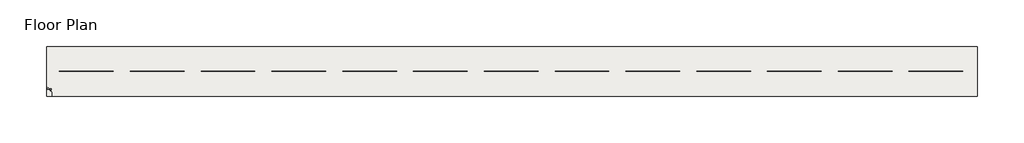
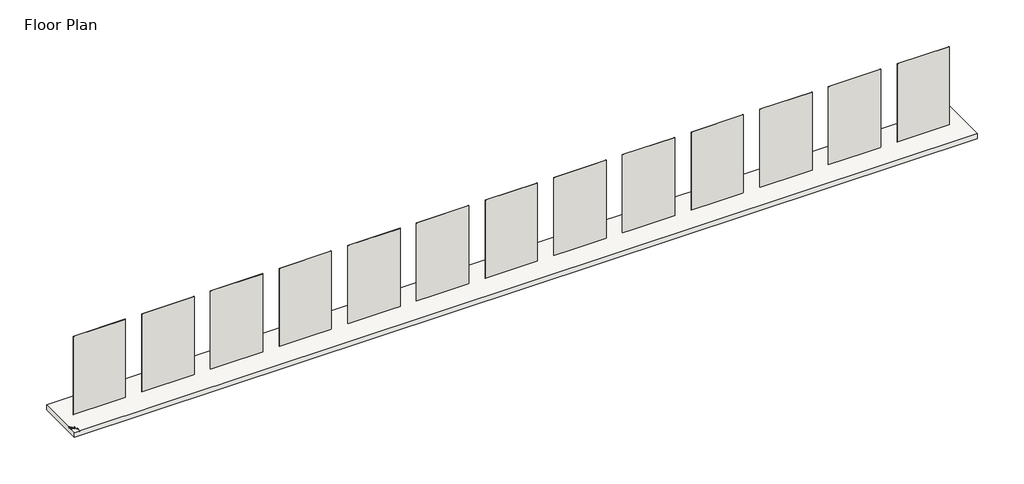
# One storey, incomplete: 13 walls, 1 slab.
"""IFC4 building model written with IfcOpenShell, lengths in millimetres."""

import ifcopenshell
import ifcopenshell.guid

model = None  # the IFC model being written
_history = None  # IfcOwnerHistory: only IFC2X3 demands one
_inside = {}  # id of a spatial element -> (the spatial element, [elements in it])
_under = {}  # id of a project, library or spatial element -> (it, [spatial elements below it])
_declared = {}  # id of a project -> (the project, [libraries it declares])
_typed = {}  # id of a type object -> (the type object, [elements of that type])
_made_of = {}  # id of a material, layer set ... -> (it, [elements and type objects made of it])


def new_model(schema):
    """Start an empty IFC model of exactly this schema.

    Asked for "IFC4X3", IfcOpenShell would pick the latest addendum, in which some entities
    have other attributes; the version numbers below select the first issue.
    IFC2X3 requires an IfcOwnerHistory on every rooted entity: one is made here for all.
    """
    global model, _history
    if schema == "IFC4X3":
        model = ifcopenshell.file(schema_version=(4, 3, 0, 0))
    else:
        model = ifcopenshell.file(schema=schema)
    _inside.clear()
    _under.clear()
    _declared.clear()
    _typed.clear()
    _made_of.clear()
    _history = None
    if model.schema == "IFC2X3":
        org = make("IfcOrganization", Name="unknown")
        user = make(
            "IfcPersonAndOrganization",
            ThePerson=make("IfcPerson", FamilyName="unknown"),
            TheOrganization=org,
        )
        app = make(
            "IfcApplication",
            ApplicationDeveloper=org,
            Version="unknown",
            ApplicationFullName="unknown",
            ApplicationIdentifier="unknown",
        )
        _history = make(
            "IfcOwnerHistory",
            OwningUser=user,
            OwningApplication=app,
            ChangeAction="ADDED",
            CreationDate=0,
        )
    return model


def make(cls, **values):
    """One entity of the class cls with the attributes given. An attribute that is None is left unset."""
    return model.create_entity(
        cls, **{name: value for name, value in values.items() if value is not None}
    )


def rooted(cls, **values):
    """An entity with a GlobalId (a new one), such as an element, a storey or a relation."""
    return make(cls, GlobalId=ifcopenshell.guid.new(), OwnerHistory=_history, **values)


def si_unit(unit_type, name, prefix=None):
    """IfcSIUnit, for example si_unit("LENGTHUNIT", "METRE", prefix="MILLI")."""
    return make("IfcSIUnit", UnitType=unit_type, Prefix=prefix, Name=name)


def assignment(units):
    """IfcUnitAssignment: the units of a project."""
    return None if units is None else make("IfcUnitAssignment", Units=units)


def point(xyz):
    """IfcCartesianPoint."""
    return None if xyz is None else make("IfcCartesianPoint", Coordinates=xyz)


def direction(xyz):
    """IfcDirection."""
    return None if xyz is None else make("IfcDirection", DirectionRatios=xyz)


def frame(location, z_axis=None, x_axis=None):
    """IfcAxis2Placement3D, a coordinate frame: its origin and axes. An axis left out is left unset."""
    return make(
        "IfcAxis2Placement3D",
        Location=point(location),
        Axis=direction(z_axis),
        RefDirection=direction(x_axis),
    )


def origin():
    """The frame at (0, 0, 0) with its axes left unset."""
    return frame((0.0, 0.0, 0.0))


def origin_with_axes():
    """The frame at (0, 0, 0) with the z axis (0, 0, 1) and the x axis (1, 0, 0) written out."""
    return frame((0.0, 0.0, 0.0), z_axis=(0.0, 0.0, 1.0), x_axis=(1.0, 0.0, 0.0))


def place(relative_to, where):
    """IfcLocalPlacement: puts the frame where relative to a parent placement (None: the world)."""
    return make(
        "IfcLocalPlacement", PlacementRelTo=relative_to, RelativePlacement=where
    )


def context(
    kind, dimensions, precision=None, world=None, true_north=None, identifier=None
):
    """IfcGeometricRepresentationContext, for example the 3D "Model" context."""
    return make(
        "IfcGeometricRepresentationContext",
        ContextIdentifier=identifier,
        ContextType=kind,
        CoordinateSpaceDimension=dimensions,
        Precision=precision,
        WorldCoordinateSystem=world,
        TrueNorth=true_north,
    )


def project(units=None, contexts=None):
    """IfcProject with its units and contexts."""
    return rooted(
        "IfcProject",
        Name="project",
        RepresentationContexts=contexts,
        UnitsInContext=assignment(units),
    )


def spatial(cls, under=None, at=None, **own):
    """A site, building, storey or space (cls), placed at a placement, below another one or the project."""
    s = rooted(cls, ObjectPlacement=at, **own)
    if under is not None:
        _under.setdefault(under.id(), (under, []))[1].append(s)
    return s


def polyline(points):
    """IfcPolyline through the points."""
    return make("IfcPolyline", Points=[point(p) for p in points])


def outline(outer, holes=None, kind="AREA"):
    """IfcArbitraryClosedProfileDef: a profile drawn as a closed curve; with holes, ...WithVoids."""
    if holes is None:
        return make("IfcArbitraryClosedProfileDef", ProfileType=kind, OuterCurve=outer)
    return make(
        "IfcArbitraryProfileDefWithVoids",
        ProfileType=kind,
        OuterCurve=outer,
        InnerCurves=holes,
    )


def extrude(swept, where, along, depth):
    """IfcExtrudedAreaSolid: the profile swept, set in the frame where, extruded along a direction by depth."""
    return make(
        "IfcExtrudedAreaSolid",
        SweptArea=swept,
        Position=where,
        ExtrudedDirection=direction(along),
        Depth=depth,
    )


def faces_of(points, faces, orient=None, outer=None):
    """IfcFace entities. A face is a list of loops; a loop is a list of indices into points, from 0.

    orient and outer hold one flag for each loop. By default every Orientation is true, the
    first loop of a face is its IfcFaceOuterBound and the others are IfcFaceBound.
    """
    made = []
    for i, loops in enumerate(faces):
        bounds = []
        for j, loop in enumerate(loops):
            is_outer = j == 0 if outer is None else outer[i][j]
            bounds.append(
                make(
                    "IfcFaceOuterBound" if is_outer else "IfcFaceBound",
                    Bound=make("IfcPolyLoop", Polygon=[points[k] for k in loop]),
                    Orientation=True if orient is None else orient[i][j],
                )
            )
        made.append(make("IfcFace", Bounds=bounds))
    return made


def faceted_brep(points, faces, orient=None, outer=None, voids=None):
    """IfcFacetedBrep: a solid bounded by flat faces; with voids (closed shells), ...WithVoids."""
    shared = [point(p) for p in points]
    hull = make("IfcClosedShell", CfsFaces=faces_of(shared, faces, orient, outer))
    if voids is None:
        return make("IfcFacetedBrep", Outer=hull)
    return make(
        "IfcFacetedBrepWithVoids",
        Outer=hull,
        Voids=[
            make(cls, CfsFaces=faces_of(shared, fs, o, b)) for cls, fs, o, b in voids
        ],
    )


def shape(context_of_items, identifier, shape_type, items):
    """IfcShapeRepresentation: the items that make up one representation, for example the "Body"."""
    return make(
        "IfcShapeRepresentation",
        ContextOfItems=context_of_items,
        RepresentationIdentifier=identifier,
        RepresentationType=shape_type,
        Items=items,
    )


def made_of(thing, what):
    """Note that an element or type object is made of a material, layer set ...; save() writes the relation."""
    if what is not None:
        _made_of.setdefault(what.id(), (what, []))[1].append(thing)
    return thing


def element(
    cls,
    number,
    at=None,
    inside=None,
    cuts=None,
    type_object=None,
    material=None,
    context=None,
    identifier="Body",
    shape_type=None,
    held_by="IfcProductDefinitionShape",
    body=None,
    shapes=None,
    **own,
):
    """One element of the class cls, such as IfcWall. Its Tag is "e" and its number.

    at: its placement. inside: the storey or other place that contains it. cuts: it is an
    opening in that element (IfcRelVoidsElement). A single representation is given by context,
    identifier, shape_type and body (its items); several are given by shapes. held_by: the class
    of the entity that holds the representations. save() writes the other relations.
    """
    e = rooted(cls, Tag="e%d" % number, ObjectPlacement=at, **own)
    if body is not None:
        shapes = [shape(context, identifier, shape_type, body)]
    if shapes is not None:
        e.Representation = make(held_by, Representations=shapes)
    if inside is not None:
        _inside.setdefault(inside.id(), (inside, []))[1].append(e)
    if cuts is not None:
        rooted(
            "IfcRelVoidsElement", RelatingBuildingElement=cuts, RelatedOpeningElement=e
        )
    if type_object is not None:
        _typed.setdefault(type_object.id(), (type_object, []))[1].append(e)
    return made_of(e, material)


def aggregate(whole, parts):
    """IfcRelAggregates: a whole, such as a stair, and the parts it consists of."""
    return rooted("IfcRelAggregates", RelatingObject=whole, RelatedObjects=parts)


def save(model, path):
    """Write the relations noted so far, then the file.

    IfcRelAggregates (storeys below a building ...), IfcRelContainedInSpatialStructure (elements
    in a storey), IfcRelDefinesByType, IfcRelAssociatesMaterial and IfcRelDeclares: one each for
    every whole, place, type object, material and project.
    """
    for whole, parts in _under.values():
        aggregate(whole, parts)
    for where, things in _inside.values():
        rooted(
            "IfcRelContainedInSpatialStructure",
            RelatedElements=things,
            RelatingStructure=where,
        )
    for kind, things in _typed.values():
        rooted("IfcRelDefinesByType", RelatedObjects=things, RelatingType=kind)
    for what, things in _made_of.values():
        rooted("IfcRelAssociatesMaterial", RelatedObjects=things, RelatingMaterial=what)
    for by, libraries in _declared.values():
        rooted("IfcRelDeclares", RelatingContext=by, RelatedDefinitions=libraries)
    model.write(path)


model = new_model("IFC4")

# Units and contexts
model_context = context("Model", 3, world=origin())
ifc_project = project(units=[si_unit("LENGTHUNIT", "METRE", prefix="MILLI")], contexts=[model_context])

# Site, building, storey
site = spatial("IfcSite", under=ifc_project)
building = spatial("IfcBuilding", under=site)
storey = spatial("IfcBuildingStorey", under=building, Name="Floor Plan", Elevation=0.0)

# Slab
placement = place(None, origin())
element("IfcSlab", 1, ObjectType="Floor 1", at=placement, inside=storey, context=model_context, shape_type="Brep", body=[
    faceted_brep([(409669.564463, -1405.268292, -300.0), (357069.564463, -1405.268292, -300.0), (357069.564463, 1405.268292, -300.0), (409669.564463, 1405.268292, -300.0), (409669.564463, 1405.268292, 0.0), (357069.564463, 1405.268292, 0.0), (357069.564463, -838.8208533, 0.0), (357073.1211266, -836.7674126, 0.0), (357103.8301292, -854.4972635, 0.0), (357103.8301292, -887.6294851, 0.0), (357073.1211266, -905.3593361, 0.0), (357069.564463, -903.3058954, 0.0), (357069.564463, -1029.5470898, 0.0), (357079.1972272, -1035.1085689, 0.0), (357115.3908374, -1014.2121783, 0.0), (357162.4046401, -1041.3556099, 0.0), (357208.4091656, -1014.7948848, 0.0), (357267.6401701, -1048.9919211, 0.0), (357267.6401701, -1095.6301509, 0.0), (357296.9088101, -1078.7318937, 0.0), (357351.5578344, -1110.2835225, 0.0), (357351.5578344, -1149.3943664, 0.0), (357386.1988505, -1169.3943664, 0.0), (357386.1988505, -1405.268292, 0.0), (409669.564463, -1405.268292, 0.0), (357152.4226577, -913.8797767, 0.0), (357198.7748127, -940.6412058, 0.0), (357198.7748127, -995.8128392, 0.0), (357152.4226577, -1022.5742684, 0.0), (357106.0705027, -995.8128392, 0.0), (357106.0705027, -940.6412058, 0.0), (357302.5290945, -971.7658751, 0.0), (357333.3339718, -989.5510793, 0.0), (357333.3339718, -1022.1588741, 0.0), (357302.5290945, -1039.9440783, 0.0), (357271.7242172, -1022.1588741, 0.0), (357271.7242172, -989.5510793, 0.0), (357386.1988505, -1405.268292, -25.0), (357069.564463, -1405.268292, -25.0), (357069.564463, -1029.5470898, -25.0), (357069.564463, -903.3058954, -25.0), (357069.564463, -838.8208533, -25.0), (357386.1988505, -1169.3943664, -25.0), (357351.5578344, -1149.3943664, -25.0), (357351.5578344, -1110.2835225, -25.0), (357296.9088101, -1078.7318937, -25.0), (357267.6401701, -1095.6301509, -25.0), (357267.6401701, -1048.9919211, -25.0), (357208.4091656, -1014.7948848, -25.0), (357162.4046401, -1041.3556099, -25.0), (357115.3908374, -1014.2121783, -25.0), (357079.1972272, -1035.1085689, -25.0), (357198.7748127, -940.6412058, -25.0), (357152.4226577, -913.8797767, -25.0), (357106.0705027, -940.6412058, -25.0), (357106.0705027, -995.8128392, -25.0), (357152.4226577, -1022.5742684, -25.0), (357198.7748127, -995.8128392, -25.0), (357103.8301292, -854.4972635, -25.0), (357073.1211266, -836.7674126, -25.0), (357073.1211266, -905.3593361, -25.0), (357103.8301292, -887.6294851, -25.0), (357333.3339718, -989.5510793, -25.0), (357302.5290945, -971.7658751, -25.0), (357271.7242172, -989.5510793, -25.0), (357271.7242172, -1022.1588741, -25.0), (357302.5290945, -1039.9440783, -25.0), (357333.3339718, -1022.1588741, -25.0)], [[[0, 1, 2, 3]], [[4, 5, 6, 7, 8, 9, 10, 11, 12, 13, 14, 15, 16, 17, 18, 19, 20, 21, 22, 23, 24], [25, 26, 27, 28, 29, 30], [31, 32, 33, 34, 35, 36]], [[1, 0, 24, 23, 37, 38]], [[2, 1, 38, 39, 12, 11, 40, 41, 6, 5]], [[3, 2, 5, 4]], [[42, 43, 44, 45, 46, 47, 48, 49, 50, 51, 39, 38, 37]], [[52, 53, 54, 55, 56, 57]], [[58, 59, 41, 40, 60, 61]], [[62, 63, 64, 65, 66, 67]], [[42, 37, 23, 22]], [[43, 42, 22, 21]], [[44, 43, 21, 20]], [[45, 44, 20, 19]], [[46, 45, 19, 18]], [[47, 46, 18, 17]], [[48, 47, 17, 16]], [[49, 48, 16, 15]], [[50, 49, 15, 14]], [[51, 50, 14, 13]], [[39, 51, 13, 12]], [[53, 52, 26, 25]], [[54, 53, 25, 30]], [[55, 54, 30, 29]], [[56, 55, 29, 28]], [[57, 56, 28, 27]], [[52, 57, 27, 26]], [[59, 58, 8, 7]], [[41, 59, 7, 6]], [[60, 40, 11, 10]], [[61, 60, 10, 9]], [[58, 61, 9, 8]], [[63, 62, 32, 31]], [[64, 63, 31, 36]], [[65, 64, 36, 35]], [[66, 65, 35, 34]], [[67, 66, 34, 33]], [[62, 67, 33, 32]], [[0, 3, 4, 24]]]),
])

# Walls
element("IfcWall", 2, ObjectType="Cemintel Cladding Sheet 4.5mm x 900mm x 1800mm", at=placement, inside=storey, context=model_context, shape_type="SweptSolid", body=[
    extrude(outline(polyline([(360848.0, -4.5), (357800.0, -4.5), (357800.0, 0.0), (360848.0, 0.0), (360848.0, -4.5)])), origin_with_axes(), (0.0, 0.0, 1.0), 4820.0),
])
element("IfcWall", 3, ObjectType="Cemintel Cladding Sheet 4.5mm x 900mm x 2400mm", at=placement, inside=storey, context=model_context, shape_type="SweptSolid", body=[
    extrude(outline(polyline([(364848.0, -4.5), (361800.0, -4.5), (361800.0, 0.0), (364848.0, 0.0), (364848.0, -4.5)])), origin_with_axes(), (0.0, 0.0, 1.0), 4820.0),
])
element("IfcWall", 4, ObjectType="Cemintel Cladding Sheet 4.5mm x 900mm x 2700mm", at=placement, inside=storey, context=model_context, shape_type="SweptSolid", body=[
    extrude(outline(polyline([(368848.0, -4.5), (365800.0, -4.5), (365800.0, 0.0), (368848.0, 0.0), (368848.0, -4.5)])), origin_with_axes(), (0.0, 0.0, 1.0), 4820.0),
])
element("IfcWall", 5, ObjectType="Cemintel Cladding Sheet 4.5mm x 900mm x 3000mm", at=placement, inside=storey, context=model_context, shape_type="SweptSolid", body=[
    extrude(outline(polyline([(372848.0, -4.5), (369800.0, -4.5), (369800.0, 0.0), (372848.0, 0.0), (372848.0, -4.5)])), origin_with_axes(), (0.0, 0.0, 1.0), 4820.0),
])
element("IfcWall", 6, ObjectType="Cemintel Cladding Sheet 4.5mm x 1200mm x 1800mm", at=placement, inside=storey, context=model_context, shape_type="SweptSolid", body=[
    extrude(outline(polyline([(376848.0, -4.5), (373800.0, -4.5), (373800.0, 0.0), (376848.0, 0.0), (376848.0, -4.5)])), origin_with_axes(), (0.0, 0.0, 1.0), 4820.0),
])
element("IfcWall", 7, ObjectType="Cemintel Cladding Sheet 4.5mm x 1200mm x 2400mm", at=placement, inside=storey, context=model_context, shape_type="SweptSolid", body=[
    extrude(outline(polyline([(380848.0, -4.5), (377800.0, -4.5), (377800.0, 0.0), (380848.0, 0.0), (380848.0, -4.5)])), origin_with_axes(), (0.0, 0.0, 1.0), 4820.0),
])
element("IfcWall", 8, ObjectType="Cemintel Cladding Sheet 4.5mm x 1200mm x 2700mm", at=placement, inside=storey, context=model_context, shape_type="SweptSolid", body=[
    extrude(outline(polyline([(384848.0, -4.5), (381800.0, -4.5), (381800.0, 0.0), (384848.0, 0.0), (384848.0, -4.5)])), origin_with_axes(), (0.0, 0.0, 1.0), 4820.0),
])
element("IfcWall", 9, ObjectType="Cemintel Cladding Sheet 4.5mm x 1200mm x 3000mm", at=placement, inside=storey, context=model_context, shape_type="SweptSolid", body=[
    extrude(outline(polyline([(388848.0, -4.5), (385800.0, -4.5), (385800.0, -0.5), (388848.0, -0.5), (388848.0, -4.5)])), origin_with_axes(), (0.0, 0.0, 1.0), 4820.0),
])
element("IfcWall", 10, ObjectType="Cemintel Cladding Sheet 6mm x 900mm x 2400mm", at=placement, inside=storey, context=model_context, shape_type="SweptSolid", body=[
    extrude(outline(polyline([(392848.0, -4.5), (389800.0, -4.5), (389800.0, 1.5), (392848.0, 1.5), (392848.0, -4.5)])), origin_with_axes(), (0.0, 0.0, 1.0), 4820.0),
])
element("IfcWall", 11, ObjectType="Cemintel Cladding Sheet 6mm x 1200mm x 1800mm", at=placement, inside=storey, context=model_context, shape_type="SweptSolid", body=[
    extrude(outline(polyline([(396848.0, -4.5), (393800.0, -4.5), (393800.0, 1.5), (396848.0, 1.5), (396848.0, -4.5)])), origin_with_axes(), (0.0, 0.0, 1.0), 4820.0),
])
element("IfcWall", 12, ObjectType="Cemintel Cladding Sheet 6mm x 1200mm x 2400mm", at=placement, inside=storey, context=model_context, shape_type="SweptSolid", body=[
    extrude(outline(polyline([(400848.0, -4.5), (397800.0, -4.5), (397800.0, 1.5), (400848.0, 1.5), (400848.0, -4.5)])), origin_with_axes(), (0.0, 0.0, 1.0), 4820.0),
])
element("IfcWall", 13, ObjectType="Cemintel Cladding Sheet 6mm x 1200mm x 2700mm", at=placement, inside=storey, context=model_context, shape_type="SweptSolid", body=[
    extrude(outline(polyline([(404848.0, -4.5), (401800.0, -4.5), (401800.0, 1.5), (404848.0, 1.5), (404848.0, -4.5)])), origin_with_axes(), (0.0, 0.0, 1.0), 4820.0),
])
element("IfcWall", 14, ObjectType="Cemintel Cladding Sheet 6mm x 1200mm x 3000mm", at=placement, inside=storey, context=model_context, shape_type="SweptSolid", body=[
    extrude(outline(polyline([(408848.0, -4.5), (405800.0, -4.5), (405800.0, 1.5), (408848.0, 1.5), (408848.0, -4.5)])), origin_with_axes(), (0.0, 0.0, 1.0), 4820.0),
])

save(model, "model.ifc")
